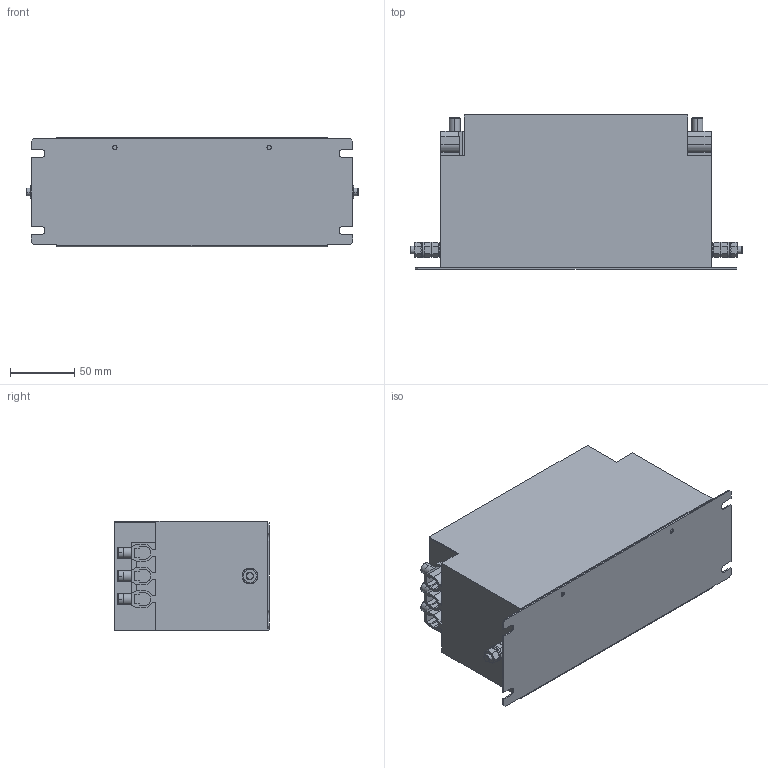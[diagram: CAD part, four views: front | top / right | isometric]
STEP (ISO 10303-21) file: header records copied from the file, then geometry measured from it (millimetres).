
FILE_DESCRIPTION((''),'2;1');
FILE_NAME('PRT0001','2021-03-18T',('EB7309'),(''),'CREO PARAMETRIC BY PTC INC, 2018220','CREO PARAMETRIC BY PTC INC, 2018220','');
FILE_SCHEMA(('AUTOMOTIVE_DESIGN { 1 0 10303 214 1 1 1 1 }'));
Length unit declared in the file: millimetre
Products named in the file (1): PRT0001
Bounding box: 258 x 120 x 85 mm (x, y, z)
Volume: 2064877.4 mm3; surface area: 124934.5 mm2
Topology: 1 solids, 1 shells, 524 faces, 1323 edges, 828 vertices
Faces by surface type: plane 291, cone 122, cylinder 103, torus 8
Entity records: 20595 total; most frequent: CARTESIAN_POINT 3633, ORIENTED_EDGE 2646, DIRECTION 2621, PRESENTATION_STYLE_ASSIGNMENT 1358, STYLED_ITEM 1324, CURVE_STYLE 1323, EDGE_CURVE 1323, AXIS2_PLACEMENT_3D 918
